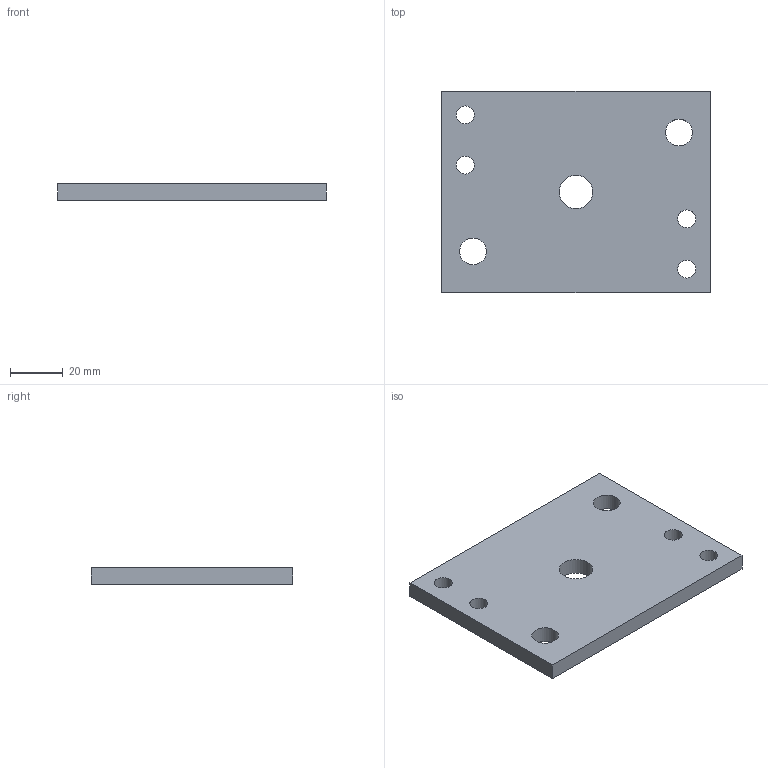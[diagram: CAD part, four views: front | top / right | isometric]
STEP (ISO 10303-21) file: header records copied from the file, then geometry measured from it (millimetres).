
FILE_DESCRIPTION(/* description */ (''),/* implementation_level */ '2;1');
FILE_NAME(/* name */ 'F:\Google Drive\Research\3d Printer Research\Feedstock Grinder\Ginder Parts\Face plate.step',/* time_stamp */ '2016-08-18T22:19:10-07:00',/* author */ ('Brenton'),/* organization */ (''),/* preprocessor_version */ 'ST-DEVELOPER v15.6',/* originating_system */ 'Autodesk Inventor 2015',/* authorisation */ '');
FILE_SCHEMA (('AUTOMOTIVE_DESIGN { 1 0 10303 214 3 1 1 }'));
Length unit declared in the file: inch
Products named in the file (1): Face plate 1
Bounding box: 101.6 x 76.2 x 6.35 mm (x, y, z)
Volume: 46431.9 mm3; surface area: 18077.1 mm2
Topology: 1 solids, 1 shells, 13 faces, 39 edges, 28 vertices
Faces by surface type: cylinder 7, plane 6
Full cylindrical faces by diameter (mm): 6.756 x4, 10.084 x2, 12.7 x1
Entity records: 420 total; most frequent: DIRECTION 68, CARTESIAN_POINT 62, ORIENTED_EDGE 52, EDGE_LOOP 34, AXIS2_PLACEMENT_3D 28, EDGE_CURVE 26, VERTEX_POINT 22, FACE_BOUND 21
